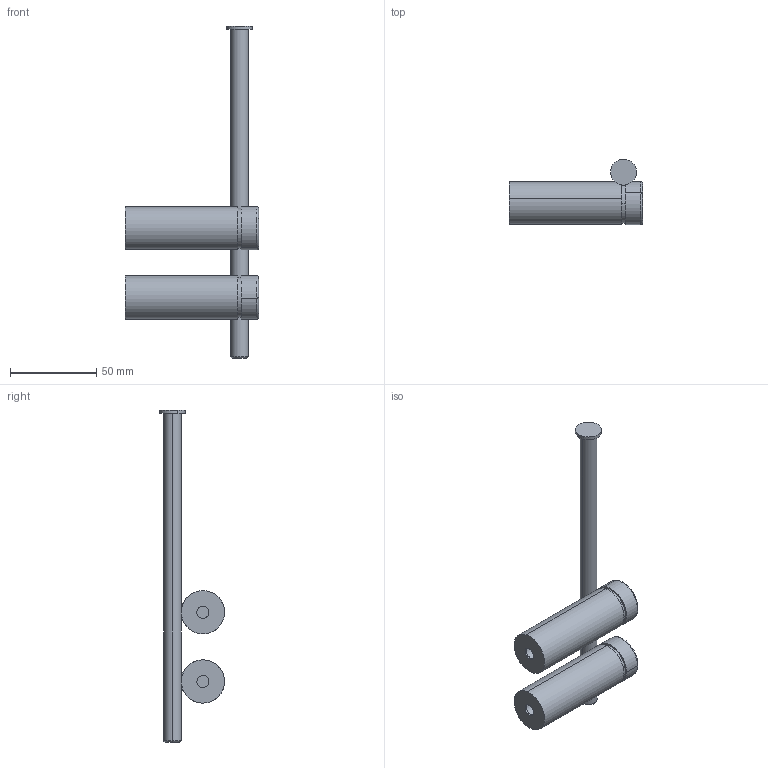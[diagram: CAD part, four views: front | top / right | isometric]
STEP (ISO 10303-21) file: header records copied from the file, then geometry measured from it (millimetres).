
FILE_DESCRIPTION (( 'STEP AP214' ), '1' );
FILE_NAME ('Uchwyt na papier toaletowy SEREN.STEP', '2024-07-03T04:53:51', ( '' ), ( '' ), 'SwSTEP 2.0', 'SolidWorks 2021', '' );
FILE_SCHEMA (( 'AUTOMOTIVE_DESIGN' ));
Length unit declared in the file: millimetre
Products named in the file (6): 02-014-0400-W-00-02; Œruba M10; 03-009-0192-W-00-02; 03-009-0192-W-00-01; Dystans monta¿owy; Uchwyt na papier toaletowy SEREN
Assembly tree (8 placements, depth 2):
  Uchwyt na papier toaletowy SEREN
    03-009-0192-W-00-01
    02-014-0400-W-00-02  x2
    03-009-0192-W-00-02
    Dystans monta¿owy  x2
    Œruba M10  x2
Bounding box: 77 x 37.63 x 192 mm (x, y, z)
Volume: 81418.2 mm3; surface area: 30253.2 mm2
Topology: 8 solids, 8 shells, 134 faces, 324 edges, 210 vertices
Faces by surface type: cylinder 80, plane 34, bspline 14, torus 6
Entity records: 7176 total; most frequent: CARTESIAN_POINT 5401, ORIENTED_EDGE 340, DIRECTION 307, EDGE_CURVE 170, AXIS2_PLACEMENT_3D 124, VERTEX_POINT 110, EDGE_LOOP 78, ADVANCED_FACE 72
